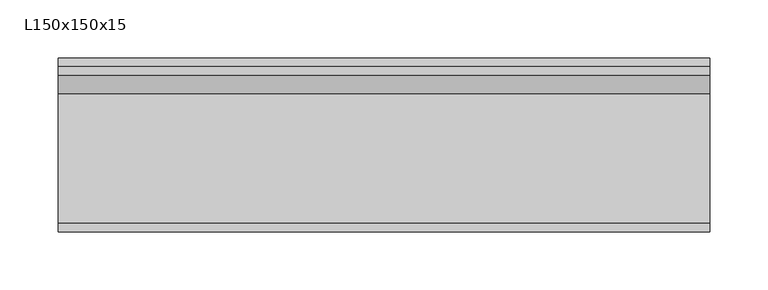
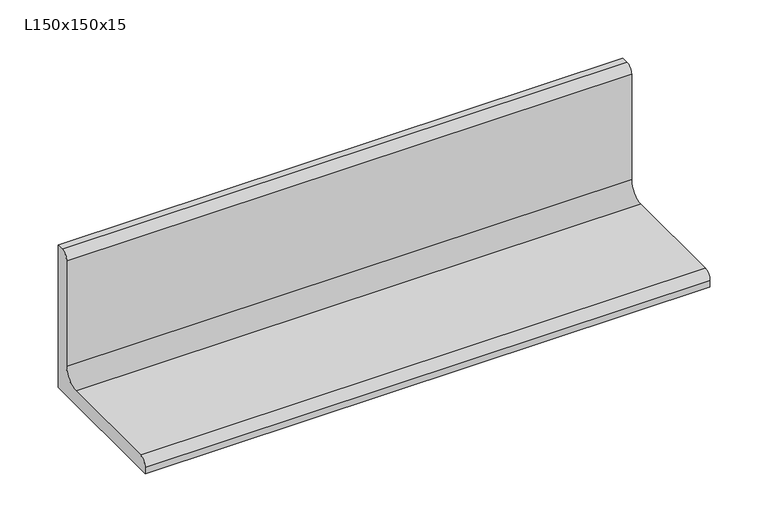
"""IFC4 building model written with IfcOpenShell, lengths in millimetres: beam geometry, NLRS_28_SF_LIB_balk hoeklijn_generiek_ISR : L150x150x15."""

import ifcopenshell
import ifcopenshell.guid

model = None  # the IFC model being written
_history = None  # IfcOwnerHistory: only IFC2X3 demands one
_inside = {}  # id of a spatial element -> (the spatial element, [elements in it])
_under = {}  # id of a project, library or spatial element -> (it, [spatial elements below it])
_declared = {}  # id of a project -> (the project, [libraries it declares])
_typed = {}  # id of a type object -> (the type object, [elements of that type])
_made_of = {}  # id of a material, layer set ... -> (it, [elements and type objects made of it])


def new_model(schema):
    """Start an empty IFC model of exactly this schema.

    Asked for "IFC4X3", IfcOpenShell would pick the latest addendum, in which some entities
    have other attributes; the version numbers below select the first issue.
    IFC2X3 requires an IfcOwnerHistory on every rooted entity: one is made here for all.
    """
    global model, _history
    if schema == "IFC4X3":
        model = ifcopenshell.file(schema_version=(4, 3, 0, 0))
    else:
        model = ifcopenshell.file(schema=schema)
    _inside.clear()
    _under.clear()
    _declared.clear()
    _typed.clear()
    _made_of.clear()
    _history = None
    if model.schema == "IFC2X3":
        org = make("IfcOrganization", Name="unknown")
        user = make(
            "IfcPersonAndOrganization",
            ThePerson=make("IfcPerson", FamilyName="unknown"),
            TheOrganization=org,
        )
        app = make(
            "IfcApplication",
            ApplicationDeveloper=org,
            Version="unknown",
            ApplicationFullName="unknown",
            ApplicationIdentifier="unknown",
        )
        _history = make(
            "IfcOwnerHistory",
            OwningUser=user,
            OwningApplication=app,
            ChangeAction="ADDED",
            CreationDate=0,
        )
    return model


def make(cls, **values):
    """One entity of the class cls with the attributes given. An attribute that is None is left unset."""
    return model.create_entity(
        cls, **{name: value for name, value in values.items() if value is not None}
    )


def rooted(cls, **values):
    """An entity with a GlobalId (a new one), such as an element, a storey or a relation."""
    return make(cls, GlobalId=ifcopenshell.guid.new(), OwnerHistory=_history, **values)


def si_unit(unit_type, name, prefix=None):
    """IfcSIUnit, for example si_unit("LENGTHUNIT", "METRE", prefix="MILLI")."""
    return make("IfcSIUnit", UnitType=unit_type, Prefix=prefix, Name=name)


def assignment(units):
    """IfcUnitAssignment: the units of a project."""
    return None if units is None else make("IfcUnitAssignment", Units=units)


def point(xyz):
    """IfcCartesianPoint."""
    return None if xyz is None else make("IfcCartesianPoint", Coordinates=xyz)


def direction(xyz):
    """IfcDirection."""
    return None if xyz is None else make("IfcDirection", DirectionRatios=xyz)


def frame(location, z_axis=None, x_axis=None):
    """IfcAxis2Placement3D, a coordinate frame: its origin and axes. An axis left out is left unset."""
    return make(
        "IfcAxis2Placement3D",
        Location=point(location),
        Axis=direction(z_axis),
        RefDirection=direction(x_axis),
    )


def frame_2d(location, x_axis=None):
    """IfcAxis2Placement2D, a coordinate frame in the plane: its origin and x axis."""
    return make(
        "IfcAxis2Placement2D", Location=point(location), RefDirection=direction(x_axis)
    )


def origin():
    """The frame at (0, 0, 0) with its axes left unset."""
    return frame((0.0, 0.0, 0.0))


def place(relative_to, where):
    """IfcLocalPlacement: puts the frame where relative to a parent placement (None: the world)."""
    return make(
        "IfcLocalPlacement", PlacementRelTo=relative_to, RelativePlacement=where
    )


def context(
    kind, dimensions, precision=None, world=None, true_north=None, identifier=None
):
    """IfcGeometricRepresentationContext, for example the 3D "Model" context."""
    return make(
        "IfcGeometricRepresentationContext",
        ContextIdentifier=identifier,
        ContextType=kind,
        CoordinateSpaceDimension=dimensions,
        Precision=precision,
        WorldCoordinateSystem=world,
        TrueNorth=true_north,
    )


def project(units=None, contexts=None):
    """IfcProject with its units and contexts."""
    return rooted(
        "IfcProject",
        Name="project",
        RepresentationContexts=contexts,
        UnitsInContext=assignment(units),
    )


def spatial(cls, under=None, at=None, **own):
    """A site, building, storey or space (cls), placed at a placement, below another one or the project."""
    s = rooted(cls, ObjectPlacement=at, **own)
    if under is not None:
        _under.setdefault(under.id(), (under, []))[1].append(s)
    return s


def polyline(points):
    """IfcPolyline through the points."""
    return make("IfcPolyline", Points=[point(p) for p in points])


def circle_curve(where, radius):
    """IfcCircle in the frame where."""
    return make("IfcCircle", Position=where, Radius=radius)


def trimmed(basis, trim1, trim2, sense, master):
    """IfcTrimmedCurve: the piece of a basis curve between two trims."""
    return make(
        "IfcTrimmedCurve",
        BasisCurve=basis,
        Trim1=trim1,
        Trim2=trim2,
        SenseAgreement=sense,
        MasterRepresentation=master,
    )


def segment(curve, same_sense, transition):
    """IfcCompositeCurveSegment."""
    return make(
        "IfcCompositeCurveSegment",
        Transition=transition,
        SameSense=same_sense,
        ParentCurve=curve,
    )


def composite_curve(segments, self_intersect=None):
    """IfcCompositeCurve: segments joined end to end."""
    return make("IfcCompositeCurve", Segments=segments, SelfIntersect=self_intersect)


def outline(outer, holes=None, kind="AREA"):
    """IfcArbitraryClosedProfileDef: a profile drawn as a closed curve; with holes, ...WithVoids."""
    if holes is None:
        return make("IfcArbitraryClosedProfileDef", ProfileType=kind, OuterCurve=outer)
    return make(
        "IfcArbitraryProfileDefWithVoids",
        ProfileType=kind,
        OuterCurve=outer,
        InnerCurves=holes,
    )


def extrude(swept, where, along, depth):
    """IfcExtrudedAreaSolid: the profile swept, set in the frame where, extruded along a direction by depth."""
    return make(
        "IfcExtrudedAreaSolid",
        SweptArea=swept,
        Position=where,
        ExtrudedDirection=direction(along),
        Depth=depth,
    )


def shape(context_of_items, identifier, shape_type, items):
    """IfcShapeRepresentation: the items that make up one representation, for example the "Body"."""
    return make(
        "IfcShapeRepresentation",
        ContextOfItems=context_of_items,
        RepresentationIdentifier=identifier,
        RepresentationType=shape_type,
        Items=items,
    )


def source(mapping_origin, context_of_items, identifier, shape_type, items):
    """IfcRepresentationMap: a shape defined once, which mapped items show again and again."""
    return make(
        "IfcRepresentationMap",
        MappingOrigin=mapping_origin,
        MappedRepresentation=shape(context_of_items, identifier, shape_type, items),
    )


def transform(
    local_origin,
    x_axis=None,
    y_axis=None,
    z_axis=None,
    scale=None,
    scale2=None,
    scale3=None,
    uniform=True,
):
    """IfcCartesianTransformationOperator3D, or its non-uniform kind. x_axis, y_axis, z_axis: its Axis1, 2, 3."""
    if uniform:
        return make(
            "IfcCartesianTransformationOperator3D",
            Axis1=direction(x_axis),
            Axis2=direction(y_axis),
            LocalOrigin=point(local_origin),
            Scale=scale,
            Axis3=direction(z_axis),
        )
    return make(
        "IfcCartesianTransformationOperator3DnonUniform",
        Axis1=direction(x_axis),
        Axis2=direction(y_axis),
        LocalOrigin=point(local_origin),
        Scale=scale,
        Axis3=direction(z_axis),
        Scale2=scale2,
        Scale3=scale3,
    )


def mapped(mapping_source, mapping_target):
    """IfcMappedItem: shows the shape of a source again, moved by a transform."""
    return make(
        "IfcMappedItem", MappingSource=mapping_source, MappingTarget=mapping_target
    )


def made_of(thing, what):
    """Note that an element or type object is made of a material, layer set ...; save() writes the relation."""
    if what is not None:
        _made_of.setdefault(what.id(), (what, []))[1].append(thing)
    return thing


def element(
    cls,
    number,
    at=None,
    inside=None,
    cuts=None,
    type_object=None,
    material=None,
    context=None,
    identifier="Body",
    shape_type=None,
    held_by="IfcProductDefinitionShape",
    body=None,
    shapes=None,
    **own,
):
    """One element of the class cls, such as IfcWall. Its Tag is "e" and its number.

    at: its placement. inside: the storey or other place that contains it. cuts: it is an
    opening in that element (IfcRelVoidsElement). A single representation is given by context,
    identifier, shape_type and body (its items); several are given by shapes. held_by: the class
    of the entity that holds the representations. save() writes the other relations.
    """
    e = rooted(cls, Tag="e%d" % number, ObjectPlacement=at, **own)
    if body is not None:
        shapes = [shape(context, identifier, shape_type, body)]
    if shapes is not None:
        e.Representation = make(held_by, Representations=shapes)
    if inside is not None:
        _inside.setdefault(inside.id(), (inside, []))[1].append(e)
    if cuts is not None:
        rooted(
            "IfcRelVoidsElement", RelatingBuildingElement=cuts, RelatedOpeningElement=e
        )
    if type_object is not None:
        _typed.setdefault(type_object.id(), (type_object, []))[1].append(e)
    return made_of(e, material)


def aggregate(whole, parts):
    """IfcRelAggregates: a whole, such as a stair, and the parts it consists of."""
    return rooted("IfcRelAggregates", RelatingObject=whole, RelatedObjects=parts)


def save(model, path):
    """Write the relations noted so far, then the file.

    IfcRelAggregates (storeys below a building ...), IfcRelContainedInSpatialStructure (elements
    in a storey), IfcRelDefinesByType, IfcRelAssociatesMaterial and IfcRelDeclares: one each for
    every whole, place, type object, material and project.
    """
    for whole, parts in _under.values():
        aggregate(whole, parts)
    for where, things in _inside.values():
        rooted(
            "IfcRelContainedInSpatialStructure",
            RelatedElements=things,
            RelatingStructure=where,
        )
    for kind, things in _typed.values():
        rooted("IfcRelDefinesByType", RelatedObjects=things, RelatingType=kind)
    for what, things in _made_of.values():
        rooted("IfcRelAssociatesMaterial", RelatedObjects=things, RelatingMaterial=what)
    for by, libraries in _declared.values():
        rooted("IfcRelDeclares", RelatingContext=by, RelatedDefinitions=libraries)
    model.write(path)


def l150x150x15_ea1ecd1c(model_context):
    return source(origin(), model_context, "Body", "SweptSolid", [
        extrude(outline(composite_curve([segment(polyline([(15.0, -15.0), (-135.0, -15.0), (-135.0, -8.0)]), True, "CONTINUOUS"), segment(trimmed(circle_curve(frame_2d((-127.0, -8.0)), 8.0), [point((-135.0, -8.0))], [point((-127.0, 0.0))], False, "CARTESIAN"), True, "CONTINUOUS"), segment(polyline([(-127.0, 0.0), (-16.0, 0.0)]), True, "CONTINUOUS"), segment(trimmed(circle_curve(frame_2d((-16.0, 16.0)), 16.0), [point((-16.0, 0.0))], [point((0.0, 16.0))], True, "CARTESIAN"), True, "CONTINUOUS"), segment(polyline([(0.0, 16.0), (0.0, 127.0)]), True, "CONTINUOUS"), segment(trimmed(circle_curve(frame_2d((8.0, 127.0)), 8.0), [point((0.0, 127.0))], [point((8.0, 135.0))], False, "CARTESIAN"), True, "CONTINUOUS"), segment(polyline([(8.0, 135.0), (15.0, 135.0), (15.0, -15.0)]), True, "CONTINUOUS")], self_intersect=False)), frame((-327.7661392, 0.0, 0.0), z_axis=(1.0, 0.0, 0.0), x_axis=(0.0, 1.0, 0.0)), (0.0, 0.0, 1.0), 561.3171191),
    ])


if __name__ == "__main__":
    model = new_model("IFC4")
    model_context = context("Model", 3, world=origin())
    ifc_project = project(units=[si_unit("LENGTHUNIT", "METRE", prefix="MILLI")], contexts=[model_context])
    site = spatial("IfcSite", under=ifc_project)
    building = spatial("IfcBuilding", under=site)
    placement = place(None, origin())
    l150x150x15_shape = l150x150x15_ea1ecd1c(model_context)
    element("IfcBeam", 1, ObjectType="NLRS_28_SF_LIB_balk hoeklijn_generiek_ISR : L150x150x15", at=placement, inside=building, context=model_context, shape_type="MappedRepresentation", body=[
        mapped(l150x150x15_shape, transform((0.0, 0.0, 0.0), x_axis=(1.0, 0.0, 0.0), y_axis=(0.0, 1.0, 0.0), z_axis=(0.0, 0.0, 1.0))),
    ])
    save(model, "model.ifc")
